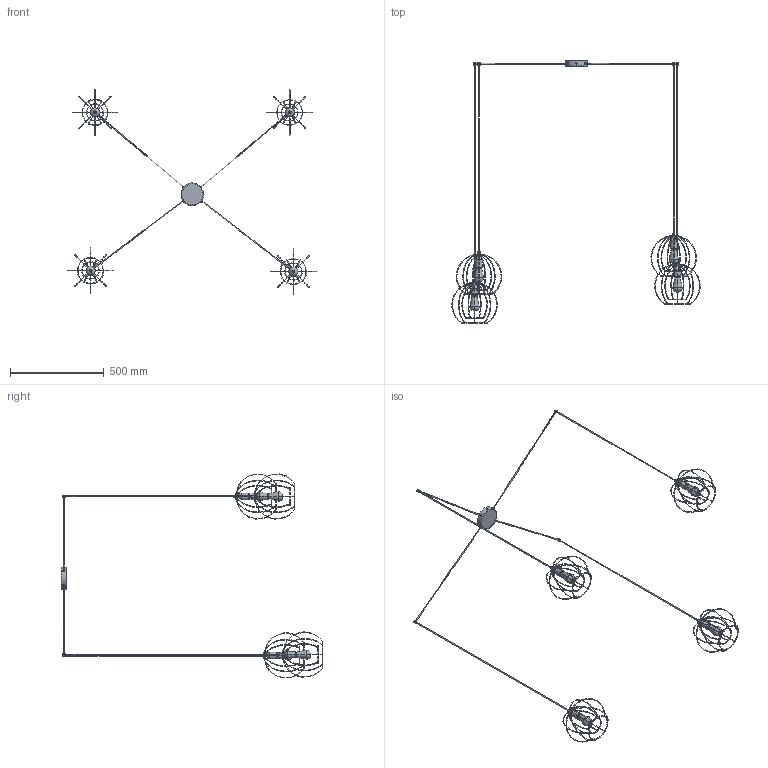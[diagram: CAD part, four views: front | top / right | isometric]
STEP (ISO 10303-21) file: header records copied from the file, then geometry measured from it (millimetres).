
FILE_DESCRIPTION(/* description */ (''),/* implementation_level */ '2;1');
FILE_NAME(/* name */ 'C:/Users/Jakub Wieczorkowski/Desktop/STEP/JAULA_6252 v7 v2 v1.step',/* time_stamp */ '2022-02-22T09:07:18+01:00',/* author */ (''),/* organization */ (''),/* preprocessor_version */ 'ST-DEVELOPER v18.1',/* originating_system */ 'Autodesk Translation Framework v10.13.0.1454',/* authorisation */ '');
FILE_SCHEMA (('AUTOMOTIVE_DESIGN { 1 0 10303 214 3 1 1 }'));
Length unit declared in the file: millimetre
Products named in the file (11): JAULA_6252 v7 v2; JAULA_245 v3; JAULA_OPRAWA v5; JAULA_245 v3 (1); JAULA_OPRAWA v5 (1); JAULA_245 v3 (2); JAULA_OPRAWA v5 (2); JAULA_245 v3 (3); JAULA_OPRAWA v5 (3); SRUBA JAULA v1; SRUBA JAULA v1(Mirror)
Assembly tree (10 placements, depth 3):
  JAULA_6252 v7 v2
    JAULA_245 v3
      JAULA_OPRAWA v5
    JAULA_245 v3 (1)
      JAULA_OPRAWA v5 (1)
    JAULA_245 v3 (2)
      JAULA_OPRAWA v5 (2)
    JAULA_245 v3 (3)
      JAULA_OPRAWA v5 (3)
    SRUBA JAULA v1
    SRUBA JAULA v1(Mirror)
Bounding box: 1327.33 x 1400.15 x 1093.54 mm (x, y, z)
Volume: 874634.1 mm3; surface area: 488382.2 mm2
Topology: 137 solids, 137 shells, 737 faces, 1307 edges, 844 vertices
Faces by surface type: plane 300, torus 162, cylinder 145, cone 72, bspline 42, sphere 16
Full cylindrical faces by diameter (mm): 1.217 x16, 3.432 x56, 5 x10, 5.6 x4, 6 x4, 6.084 x4, 8 x2, 10 x4, 11 x4, 12 x12, 27.229 x4, 28.142 x4, 33.93 x4, 35.1 x4, 120 x1
Entity records: 22984 total; most frequent: CARTESIAN_POINT 7618, DIRECTION 3509, ORIENTED_EDGE 2592, AXIS2_PLACEMENT_3D 1599, EDGE_CURVE 1296, CIRCLE 877, VERTEX_POINT 843, EDGE_LOOP 767
